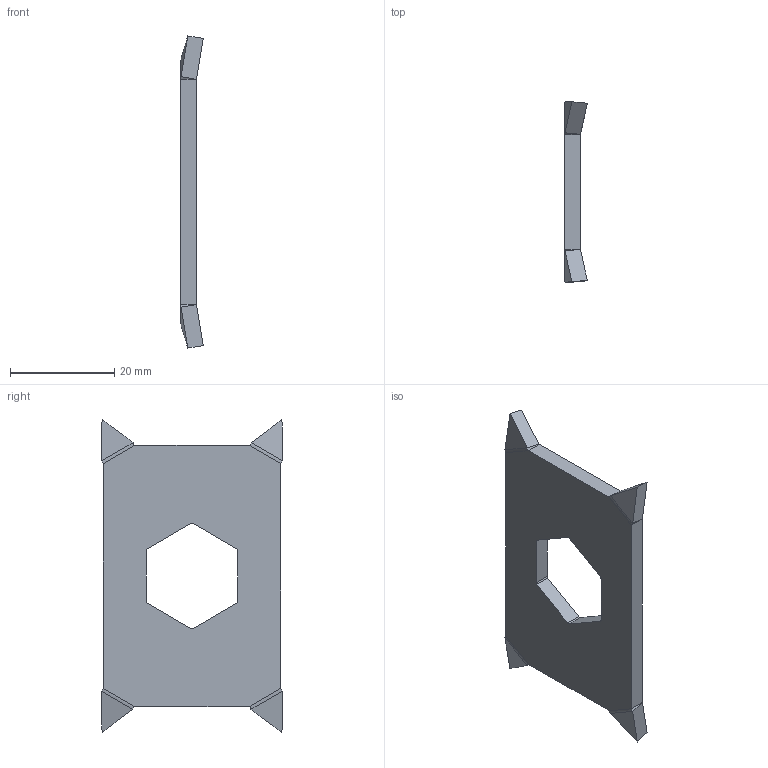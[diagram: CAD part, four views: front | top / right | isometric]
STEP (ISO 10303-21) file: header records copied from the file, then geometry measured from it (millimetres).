
FILE_DESCRIPTION(/* description */ (''),/* implementation_level */ '2;1');
FILE_NAME(/* name */ '\\192.168.101.115\営業本部\EG\X2\30BB30F330BF30FC\X0\\99_各個人\08_中村紗\３Ｄ\取付金具P-0D1.stp',/* time_stamp */ '2015-04-22T09:05:06+09:00',/* author */ ('UMME'),/* organization */ (''),/* preprocessor_version */ 'ST-DEVELOPER v15.2',/* originating_system */ 'Autodesk Inventor 2014',/* authorisation */ '');
FILE_SCHEMA (('AUTOMOTIVE_DESIGN { 1 0 10303 214 3 1 1 }'));
Length unit declared in the file: millimetre
Products named in the file (1): 取付金具P-0D1
Bounding box: 4.32 x 34.57 x 59.77 mm (x, y, z)
Volume: 4481.5 mm3; surface area: 3752.3 mm2
Topology: 1 solids, 1 shells, 50 faces, 114 edges, 66 vertices
Faces by surface type: plane 28, cylinder 14, bspline 8
Entity records: 1490 total; most frequent: CARTESIAN_POINT 399, ORIENTED_EDGE 228, DIRECTION 196, EDGE_CURVE 114, LINE 86, VECTOR 86, VERTEX_POINT 66, AXIS2_PLACEMENT_3D 55
